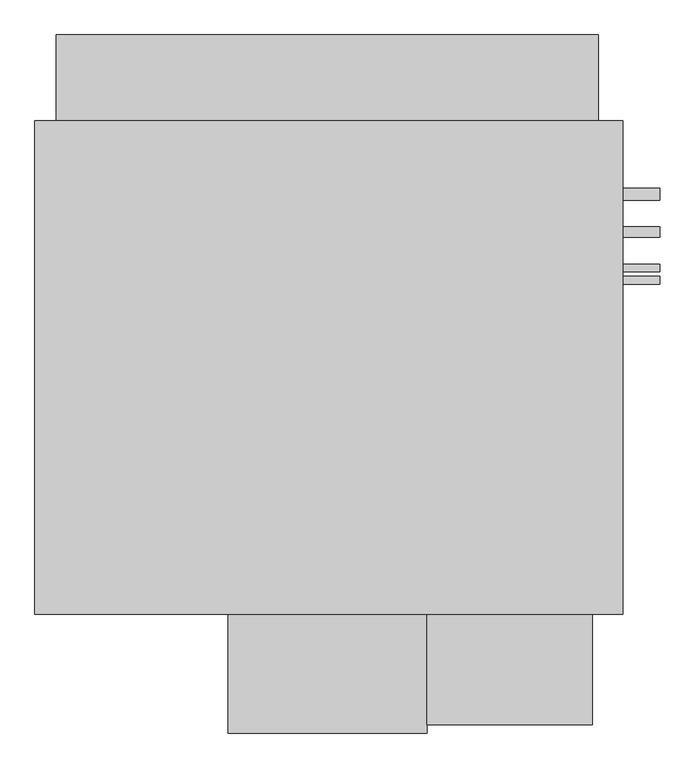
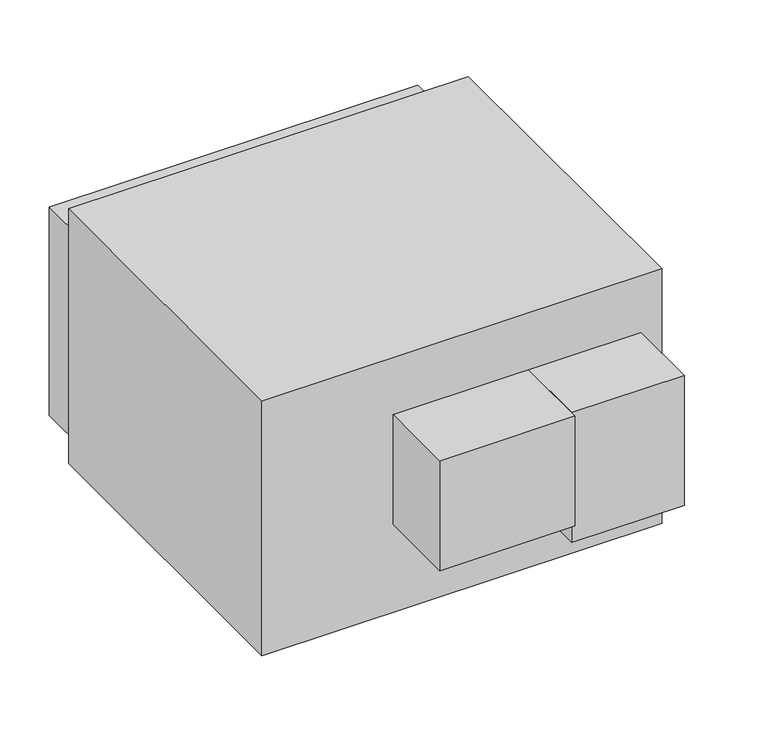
"""IFC4 building model written with IfcOpenShell, lengths in millimetres: proxy geometry, Horizontal_Direct_Drive_Blower_Coil_Unit_-_42DHA_-_CARRIER_-_4-Pipe_RH_2022 : Size 30 - 460v/60Hz/3Ph - 6/2 Coil."""

from ifc_helpers import new_model, si_unit, point, frame, frame_2d, origin, place, context, project, spatial, polyline, circle_curve, trimmed, segment, composite_curve, outline, extrude, source, transform, mapped, element, save


def mechanical_equipment_5e05b3fe(model_context):
    return source(origin(), model_context, "Body", "SweptSolid", [
        extrude(outline(polyline([(152.4, 492.125), (152.4, -530.225), (-1066.8, -530.225), (-1066.8, 492.125), (152.4, 492.125)])), frame((0.0, 0.0, -822.3058174), z_axis=(0.0, 0.0, 1.0), x_axis=(1.0, 0.0, 0.0)), (0.0, 0.0, 1.0), 822.3058174),
        extrude(outline(polyline([(88.9, -758.825), (-254.0, -758.825), (-254.0, -530.225), (88.9, -530.225), (88.9, -758.825)])), frame((0.0, 0.0, -603.2308174), z_axis=(0.0, 0.0, 1.0), x_axis=(1.0, 0.0, 0.0)), (0.0, 0.0, 1.0), 419.1),
        extrude(outline(composite_curve([segment(trimmed(circle_curve(frame_2d((339.725, -180.7500418)), 12.7), [point((352.425, -180.7500418))], [point((327.025, -180.7500418))], False, "CARTESIAN"), True, "CONTINUOUS"), segment(trimmed(circle_curve(frame_2d((339.725, -180.7500418)), 12.7), [point((327.025, -180.7500418))], [point((352.425, -180.7500418))], False, "CARTESIAN"), True, "CONTINUOUS")], self_intersect=False)), frame((152.4, 0.0, 0.0), z_axis=(1.0, 0.0, 0.0), x_axis=(0.0, 1.0, 0.0)), (0.0, 0.0, 1.0), 76.2),
        extrude(outline(composite_curve([segment(trimmed(circle_curve(frame_2d((339.725, -695.3058174)), 12.7), [point((352.425, -695.3058174))], [point((327.025, -695.3058174))], False, "CARTESIAN"), True, "CONTINUOUS"), segment(trimmed(circle_curve(frame_2d((339.725, -695.3058174)), 12.7), [point((327.025, -695.3058174))], [point((352.425, -695.3058174))], False, "CARTESIAN"), True, "CONTINUOUS")], self_intersect=False)), frame((152.4, 0.0, 0.0), z_axis=(1.0, 0.0, 0.0), x_axis=(0.0, 1.0, 0.0)), (0.0, 0.0, 1.0), 76.2),
        extrude(outline(composite_curve([segment(trimmed(circle_curve(frame_2d((261.7604089, -777.8558174)), 11.1125), [point((272.8729089, -777.8558174))], [point((250.6479089, -777.8558174))], False, "CARTESIAN"), True, "CONTINUOUS"), segment(trimmed(circle_curve(frame_2d((261.7604089, -777.8558174)), 11.1125), [point((250.6479089, -777.8558174))], [point((272.8729089, -777.8558174))], False, "CARTESIAN"), True, "CONTINUOUS")], self_intersect=False)), frame((152.4, 0.0, 0.0), z_axis=(1.0, 0.0, 0.0), x_axis=(0.0, 1.0, 0.0)), (0.0, 0.0, 1.0), 76.2),
        extrude(outline(composite_curve([segment(trimmed(circle_curve(frame_2d((187.325, -231.7558174)), 7.9375), [point((195.2625, -231.7558174))], [point((179.3875, -231.7558174))], False, "CARTESIAN"), True, "CONTINUOUS"), segment(trimmed(circle_curve(frame_2d((187.325, -231.7558174)), 7.9375), [point((179.3875, -231.7558174))], [point((195.2625, -231.7558174))], False, "CARTESIAN"), True, "CONTINUOUS")], self_intersect=False)), frame((152.4, 0.0, 0.0), z_axis=(1.0, 0.0, 0.0), x_axis=(0.0, 1.0, 0.0)), (0.0, 0.0, 1.0), 76.2),
        extrude(outline(composite_curve([segment(trimmed(circle_curve(frame_2d((161.925, -644.5058174)), 7.9375), [point((169.8625, -644.5058174))], [point((153.9875, -644.5058174))], False, "CARTESIAN"), True, "CONTINUOUS"), segment(trimmed(circle_curve(frame_2d((161.925, -644.5058174)), 7.9375), [point((153.9875, -644.5058174))], [point((169.8625, -644.5058174))], False, "CARTESIAN"), True, "CONTINUOUS")], self_intersect=False)), frame((152.4, 0.0, 0.0), z_axis=(1.0, 0.0, 0.0), x_axis=(0.0, 1.0, 0.0)), (0.0, 0.0, 1.0), 76.2),
        extrude(outline(polyline([(-1022.35, 669.925), (101.6, 669.925), (101.6, 492.125), (-1022.35, 492.125), (-1022.35, 669.925)])), frame((0.0, 0.0, -790.5558174), z_axis=(0.0, 0.0, 1.0), x_axis=(1.0, 0.0, 0.0)), (0.0, 0.0, 1.0), 673.1),
        extrude(outline(polyline([(-254.0, -776.2875), (-666.75, -776.2875), (-666.75, -530.225), (-254.0, -530.225), (-254.0, -776.2875)])), frame((0.0, 0.0, -539.7308174), z_axis=(0.0, 0.0, 1.0), x_axis=(1.0, 0.0, 0.0)), (0.0, 0.0, 1.0), 355.6),
    ])


if __name__ == "__main__":
    model = new_model("IFC4")
    model_context = context("Model", 3, world=origin())
    ifc_project = project(units=[si_unit("LENGTHUNIT", "METRE", prefix="MILLI")], contexts=[model_context])
    site = spatial("IfcSite", under=ifc_project)
    building = spatial("IfcBuilding", under=site)
    placement = place(None, origin())
    mechanical_equipment_shape = mechanical_equipment_5e05b3fe(model_context)
    element("IfcBuildingElementProxy", 1, Name="Horizontal_Direct_Drive_Blower_Coil_Unit_-_42DHA_-_CARRIER_-_4-Pipe_RH_2022 : Size 30 - 460v/60Hz/3Ph - 6/2 Coil", ObjectType="Horizontal_Direct_Drive_Blower_Coil_Unit_-_42DHA_-_CARRIER_-_4-Pipe_RH_2022 : Size 30 - 460v/60Hz/3Ph - 6/2 Coil", at=placement, inside=building, context=model_context, shape_type="MappedRepresentation", body=[
        mapped(mechanical_equipment_shape, transform((0.0, 0.0, 0.0), x_axis=(1.0, 0.0, 0.0), y_axis=(0.0, 1.0, 0.0), z_axis=(0.0, 0.0, 1.0))),
    ])
    save(model, "model.ifc")
